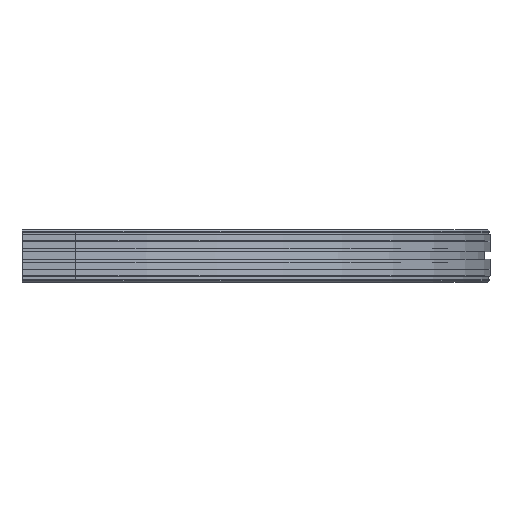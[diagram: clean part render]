
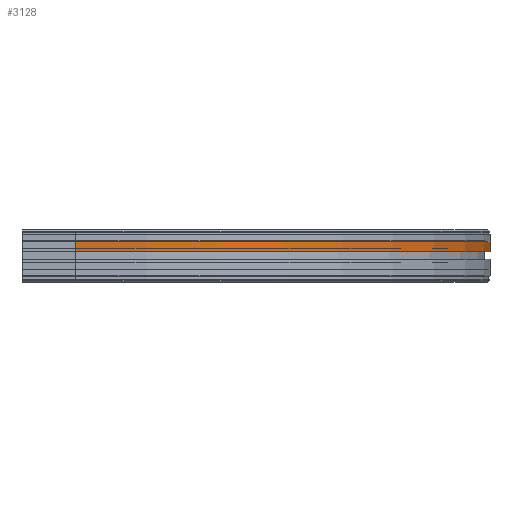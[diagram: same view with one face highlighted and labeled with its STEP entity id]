
A CAD part, front view. The second image highlights one B-rep face of the part: STEP entity #3128.
In plain terms, the highlighted cylindrical face has radius 621 mm (diameter 1242 mm), a partial arc.
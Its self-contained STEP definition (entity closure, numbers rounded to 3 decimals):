
#1660=CARTESIAN_POINT('',(80.,-1210.,-17.5));
#1661=VERTEX_POINT('',#1660);
#1691=CARTESIAN_POINT('',(80.,-1210.,-32.5));
#1692=VERTEX_POINT('',#1691);
#1699=CARTESIAN_POINT('',(80.,-1210.,-17.5));
#1700=DIRECTION('',(0.0,0.0,-1.0));
#1701=VECTOR('',#1700,15.);
#1702=LINE('',#1699,#1701);
#1703=EDGE_CURVE('',#1661,#1692,#1702,.T.);
#3085=CARTESIAN_POINT('',(80.0,32.0,-17.5));
#3086=VERTEX_POINT('',#3085);
#3087=CARTESIAN_POINT('',(80.,-589.,-17.5));
#3088=DIRECTION('',(0.0,0.0,-1.0));
#3089=DIRECTION('',(0.0,1.0,0.0));
#3090=AXIS2_PLACEMENT_3D('',#3087,#3088,#3089);
#3091=CIRCLE('',#3090,621.);
#3092=EDGE_CURVE('',#3086,#1661,#3091,.T.);
#3104=CARTESIAN_POINT('',(80.,-589.,-25.));
#3105=DIRECTION('',(0.0,0.0,-1.0));
#3106=DIRECTION('',(0.0,1.0,0.0));
#3107=AXIS2_PLACEMENT_3D('',#3104,#3105,#3106);
#3108=CYLINDRICAL_SURFACE('',#3107,621.);
#3109=ORIENTED_EDGE('',*,*,#1703,.T.);
#3110=CARTESIAN_POINT('',(80.0,32.0,-32.5));
#3111=VERTEX_POINT('',#3110);
#3112=CARTESIAN_POINT('',(80.,-589.,-32.5));
#3113=DIRECTION('',(0.0,0.0,-1.0));
#3114=DIRECTION('',(0.0,1.0,0.0));
#3115=AXIS2_PLACEMENT_3D('',#3112,#3113,#3114);
#3116=CIRCLE('',#3115,621.);
#3117=EDGE_CURVE('',#3111,#1692,#3116,.T.);
#3118=ORIENTED_EDGE('',*,*,#3117,.F.);
#3119=CARTESIAN_POINT('',(80.0,32.0,-17.5));
#3120=DIRECTION('',(0.0,0.0,-1.0));
#3121=VECTOR('',#3120,15.);
#3122=LINE('',#3119,#3121);
#3123=EDGE_CURVE('',#3086,#3111,#3122,.T.);
#3124=ORIENTED_EDGE('',*,*,#3123,.F.);
#3125=ORIENTED_EDGE('',*,*,#3092,.T.);
#3126=EDGE_LOOP('',(#3109,#3118,#3124,#3125));
#3127=FACE_OUTER_BOUND('',#3126,.T.);
#3128=ADVANCED_FACE('',(#3127),#3108,.T.);
